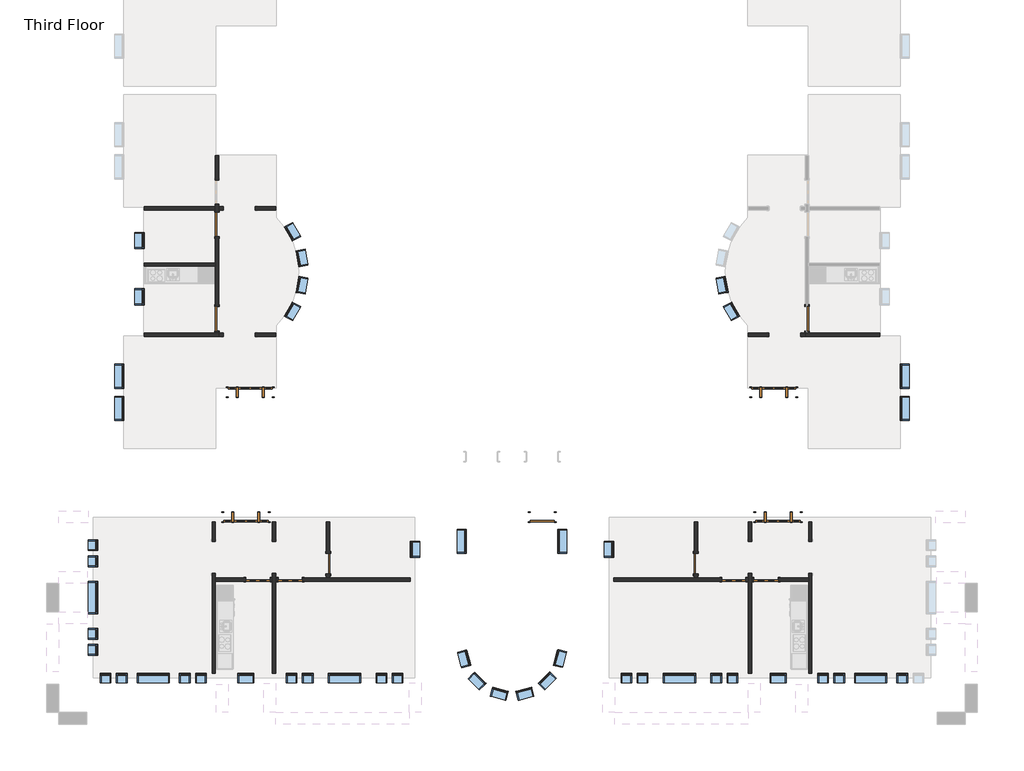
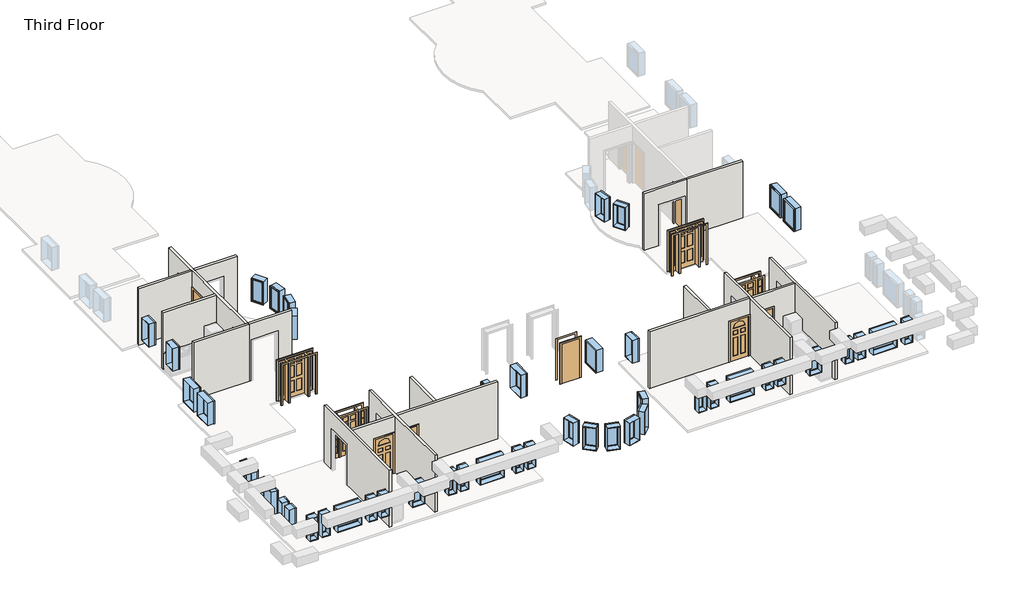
# One storey, part 1 of 4: 48 windows, 18 walls, 14 doors.
"""IFC4 building model written with IfcOpenShell, lengths in millimetres."""

from ifc_helpers import new_model, si_unit, frame, origin, place, context, project, spatial, polyline, outline, extrude, faceted_brep, transform, mapped, element, save
from components import door_829da954, door_2e3b4da2, door_4d6c7550, door_e36758a9, door_a1797ceb, door_a3eb833a, door_cc5399a4, door_dba5aa2e, door_ffdb1193, window_da97879f, window_d61ef850, window_60baf983, window_ed80354a, window_15c49d37, window_0e2fc6ce, window_6eb97611, window_d89bf842

model = new_model("IFC4")

# Units and contexts
model_context = context("Model", 3, world=origin())
ifc_project = project(units=[si_unit("LENGTHUNIT", "METRE", prefix="MILLI")], contexts=[model_context])

# Site, building, storey
site = spatial("IfcSite", under=ifc_project)
building = spatial("IfcBuilding", under=site)
storey = spatial("IfcBuildingStorey", under=building, Name="Third Floor", Elevation=6096.0)

# Doors
placement = place(None, origin())
door_shape = door_829da954(model_context)
element("IfcDoor", 1, ObjectType="Single-Decorative 2 : 36\" x 84\"", at=placement, inside=storey, context=model_context, shape_type="MappedRepresentation", body=[
    mapped(door_shape, transform((-6669.0589563, -30331.8808133, 6096.0), x_axis=(1.0, 0.0, 0.0), y_axis=(0.0, 1.0, 0.0), z_axis=(0.0, 0.0, 1.0))),
])
element("IfcDoor", 2, ObjectType="Single-Decorative 2 : 36\" x 84\"", at=placement, inside=storey, context=model_context, shape_type="MappedRepresentation", body=[
    mapped(door_shape, transform((-24674.4839563, -30331.8808133, 6096.0), x_axis=(1.0, 0.0, 0.0), y_axis=(0.0, 1.0, 0.0), z_axis=(0.0, 0.0, 1.0))),
])
door_2_shape = door_2e3b4da2(model_context)
element("IfcDoor", 3, ObjectType="Single-Decorative 2 : 36\" x 84\"", at=placement, inside=storey, context=model_context, shape_type="MappedRepresentation", body=[
    mapped(door_2_shape, transform((-5449.8589563, -30331.8808133, 6096.0), x_axis=(-1.0, 0.0, 0.0), y_axis=(0.0, -1.0, 0.0), z_axis=(0.0, 0.0, 1.0))),
])
element("IfcDoor", 4, ObjectType="Single-Decorative 2 : 36\" x 84\"", at=placement, inside=storey, context=model_context, shape_type="MappedRepresentation", body=[
    mapped(door_2_shape, transform((-23455.2839563, -30331.8808133, 6096.0), x_axis=(-1.0, 0.0, 0.0), y_axis=(0.0, -1.0, 0.0), z_axis=(0.0, 0.0, 1.0))),
])
door_3_shape = door_4d6c7550(model_context)
element("IfcDoor", 5, ObjectType="Single-Flush : 30\" x 84\"", at=placement, inside=storey, context=model_context, shape_type="MappedRepresentation", body=[
    mapped(door_3_shape, transform((-22018.5964563, -29722.2808133, 6096.0), x_axis=(0.0, -1.0, 0.0), y_axis=(1.0, 0.0, 0.0), z_axis=(0.0, 0.0, 1.0))),
])
door_4_shape = door_e36758a9(model_context)
element("IfcDoor", 6, ObjectType="Single-Flush : 30\" x 84\"", at=placement, inside=storey, context=model_context, shape_type="MappedRepresentation", body=[
    mapped(door_4_shape, transform((-8105.7464563, -29722.2808133, 6096.0), x_axis=(0.0, -1.0, 0.0), y_axis=(1.0, 0.0, 0.0), z_axis=(0.0, 0.0, 1.0))),
])
door_5_shape = door_a1797ceb(model_context)
element("IfcDoor", 7, ObjectType="Single-Flush : 36\" x 84\"", at=placement, inside=storey, context=model_context, shape_type="MappedRepresentation", body=[
    mapped(door_5_shape, transform((-3900.4589563, -20451.2808133, 6096.0), x_axis=(0.0, -1.0, 0.0), y_axis=(1.0, 0.0, 0.0), z_axis=(0.0, 0.0, 1.0))),
])
element("IfcDoor", 8, ObjectType="Single-Flush : 36\" x 84\"", at=placement, inside=storey, context=model_context, shape_type="MappedRepresentation", body=[
    mapped(door_5_shape, transform((-26223.8839563, -16873.0558133, 6096.0), x_axis=(0.0, 1.0, 0.0), y_axis=(-1.0, 0.0, 0.0), z_axis=(0.0, 0.0, 1.0))),
])
door_6_shape = door_a3eb833a(model_context)
element("IfcDoor", 9, ObjectType="Single-Flush : 36\" x 84\"", at=placement, inside=storey, context=model_context, shape_type="MappedRepresentation", body=[
    mapped(door_6_shape, transform((-26223.8839563, -20451.2808133, 6096.0), x_axis=(0.0, -1.0, 0.0), y_axis=(1.0, 0.0, 0.0), z_axis=(0.0, 0.0, 1.0))),
])
door_7_shape = door_cc5399a4(model_context)
element("IfcDoor", 10, ObjectType="Single-Flush : 36\" x 84\"", at=placement, inside=storey, context=model_context, shape_type="MappedRepresentation", body=[
    mapped(door_7_shape, transform((-13919.1714563, -27958.5683133, 6096.0), x_axis=(1.0, 0.0, 0.0), y_axis=(0.0, 1.0, 0.0), z_axis=(0.0, 0.0, 1.0))),
])
door_8_shape = door_dba5aa2e(model_context)
element("IfcDoor", 11, ObjectType="Single-Raised Panel with Sidelights : 36\" x 84\"", at=placement, inside=storey, context=model_context, shape_type="MappedRepresentation", body=[
    mapped(door_8_shape, transform((-5156.1714563, -23234.1683133, 6096.0), x_axis=(-1.0, 0.0, 0.0), y_axis=(0.0, -1.0, 0.0), z_axis=(0.0, 0.0, 1.0))),
])
element("IfcDoor", 12, ObjectType="Single-Raised Panel with Sidelights : 36\" x 84\"", at=placement, inside=storey, context=model_context, shape_type="MappedRepresentation", body=[
    mapped(door_8_shape, transform((-25131.6839563, -27958.5683133, 6096.0), x_axis=(1.0, 0.0, 0.0), y_axis=(0.0, 1.0, 0.0), z_axis=(0.0, 0.0, 1.0))),
])
door_9_shape = door_ffdb1193(model_context)
element("IfcDoor", 13, ObjectType="Single-Raised Panel with Sidelights : 36\" x 84\"", at=placement, inside=storey, context=model_context, shape_type="MappedRepresentation", body=[
    mapped(door_9_shape, transform((-4992.6589563, -27958.5683133, 6096.0), x_axis=(-1.0, 0.0, 0.0), y_axis=(0.0, -1.0, 0.0), z_axis=(0.0, 0.0, 1.0))),
])
element("IfcDoor", 14, ObjectType="Single-Raised Panel with Sidelights : 36\" x 84\"", at=placement, inside=storey, context=model_context, shape_type="MappedRepresentation", body=[
    mapped(door_9_shape, transform((-24968.1714563, -23234.1683133, 6096.0), x_axis=(1.0, 0.0, 0.0), y_axis=(0.0, 1.0, 0.0), z_axis=(0.0, 0.0, 1.0))),
])

# Walls
element("IfcWall", 15, ObjectType="Interior - 5\" Partition (2-hr)", at=placement, inside=storey, context=model_context, shape_type="Brep", body=[
    faceted_brep([(-3709.9589563, -33878.3558133, 6096.0), (-3709.9589563, -30092.1683133, 6096.0), (-3709.9589563, -30092.1683133, 8229.6), (-3709.9589563, -28872.9683133, 8229.6), (-3709.9589563, -28872.9683133, 6096.0), (-3709.9589563, -28134.7808133, 6096.0), (-3709.9589563, -28134.7808133, 9144.0), (-3709.9589563, -33878.3558133, 9144.0), (-3836.9589563, -30092.1683133, 8229.6), (-3836.9589563, -30092.1683133, 6096.0), (-3836.9589563, -30268.3808133, 6096.0), (-3836.9589563, -30395.3808133, 6096.0), (-3836.9589563, -33878.3558133, 6096.0), (-3836.9589563, -33878.3558133, 9144.0), (-3836.9589563, -30395.3808133, 9144.0), (-3836.9589563, -30268.3808133, 9144.0), (-3836.9589563, -28134.7808133, 9144.0), (-3836.9589563, -28134.7808133, 6096.0), (-3836.9589563, -28872.9683133, 6096.0), (-3836.9589563, -28872.9683133, 8229.6)], [[[0, 1, 2, 3, 4, 5, 6, 7]], [[8, 9, 10, 11, 12, 13, 14, 15, 16, 17, 18, 19]], [[12, 11, 10, 9, 1, 0]], [[18, 17, 5, 4]], [[7, 6, 16, 15, 14, 13]], [[0, 7, 13, 12]], [[6, 5, 17, 16]], [[4, 3, 19, 18]], [[2, 1, 9, 8]], [[3, 2, 8, 19]]]),
])
element("IfcWall", 16, ObjectType="Interior - 5\" Partition (2-hr)", at=placement, inside=storey, context=model_context, shape_type="Brep", body=[
    faceted_brep([(-5995.9589563, -28872.9683133, 8229.6), (-5995.9589563, -28872.9683133, 6096.0), (-5995.9589563, -28134.7808133, 6096.0), (-5995.9589563, -28134.7808133, 9144.0), (-5995.9589563, -30268.3808133, 9144.0), (-5995.9589563, -30395.3808133, 9144.0), (-5995.9589563, -33878.3558133, 9144.0), (-5995.9589563, -33878.3558133, 6096.0), (-5995.9589563, -30395.3808133, 6096.0), (-5995.9589563, -30268.3808133, 6096.0), (-5995.9589563, -30092.1683133, 6096.0), (-5995.9589563, -30092.1683133, 8229.6), (-6122.9589563, -28134.7808133, 6096.0), (-6122.9589563, -28872.9683133, 6096.0), (-6122.9589563, -28872.9683133, 8229.6), (-6122.9589563, -30092.1683133, 8229.6), (-6122.9589563, -30092.1683133, 6096.0), (-6122.9589563, -30268.3808133, 6096.0), (-6122.9589563, -30395.3808133, 6096.0), (-6122.9589563, -33878.3558133, 6096.0), (-6122.9589563, -33878.3558133, 9144.0), (-6122.9589563, -30395.3808133, 9144.0), (-6122.9589563, -30268.3808133, 9144.0), (-6122.9589563, -28134.7808133, 9144.0)], [[[0, 1, 2, 3, 4, 5, 6, 7, 8, 9, 10, 11]], [[12, 13, 14, 15, 16, 17, 18, 19, 20, 21, 22, 23]], [[2, 1, 13, 12]], [[10, 9, 8, 7, 19, 18, 17, 16]], [[6, 5, 4, 3, 23, 22, 21, 20]], [[7, 6, 20, 19]], [[3, 2, 12, 23]], [[16, 15, 11, 10]], [[14, 13, 1, 0]], [[15, 14, 0, 11]]]),
])
element("IfcWall", 17, ObjectType="Interior - 5\" Partition (2-hr)", at=placement, inside=storey, context=model_context, shape_type="Brep", body=[
    faceted_brep([(-6211.8589563, -30395.3808133, 8229.6), (-6211.8589563, -30395.3808133, 6096.0), (-6122.9589563, -30395.3808133, 6096.0), (-6122.9589563, -30395.3808133, 9144.0), (-11217.2464563, -30395.3808133, 9144.0), (-11217.2464563, -30395.3808133, 6096.0), (-7126.2589563, -30395.3808133, 6096.0), (-7126.2589563, -30395.3808133, 8229.6), (-6122.9589563, -30268.3808133, 6096.0), (-6211.8589563, -30268.3808133, 6096.0), (-6211.8589563, -30268.3808133, 8229.6), (-7126.2589563, -30268.3808133, 8229.6), (-7126.2589563, -30268.3808133, 6096.0), (-8042.2464563, -30268.3808133, 6096.0), (-8169.2464563, -30268.3808133, 6096.0), (-11217.2464563, -30268.3808133, 6096.0), (-11217.2464563, -30268.3808133, 9144.0), (-8169.2464563, -30268.3808133, 9144.0), (-8042.2464563, -30268.3808133, 9144.0), (-6122.9589563, -30268.3808133, 9144.0)], [[[0, 1, 2, 3, 4, 5, 6, 7]], [[8, 9, 10, 11, 12, 13, 14, 15, 16, 17, 18, 19]], [[2, 1, 9, 8]], [[6, 5, 15, 14, 13, 12]], [[4, 3, 19, 18, 17, 16]], [[3, 2, 8, 19]], [[5, 4, 16, 15]], [[10, 9, 1, 0]], [[11, 10, 0, 7]], [[12, 11, 7, 6]]]),
])
element("IfcWall", 18, ObjectType="Interior - 5\" Partition (2-hr)", at=placement, inside=storey, context=model_context, shape_type="SweptSolid", body=[
    extrude(outline(polyline([(-30103.2808133, 8229.6), (-30103.2808133, 6096.0), (-30268.3808133, 6096.0), (-30268.3808133, 9144.0), (-28134.7808133, 9144.0), (-28134.7808133, 6096.0), (-29341.2808133, 6096.0), (-29341.2808133, 8229.6), (-30103.2808133, 8229.6)])), frame((-8169.2464563, 0.0, 0.0), z_axis=(1.0, 0.0, 0.0), x_axis=(0.0, 1.0, 0.0)), (0.0, 0.0, 1.0), 127.0),
])
element("IfcWall", 19, ObjectType="Interior - 5\" Partition (2-hr)", at=placement, inside=storey, context=model_context, shape_type="SweptSolid", body=[
    extrude(outline(polyline([(6096.0, -5995.9589563), (6096.0, -5907.0589563), (8229.6, -5907.0589563), (8229.6, -4992.6589563), (6096.0, -4992.6589563), (6096.0, -3836.9589563), (9144.0, -3836.9589563), (9144.0, -5995.9589563), (6096.0, -5995.9589563)])), frame((0.0, -30395.3808133, 0.0), z_axis=(0.0, 1.0, 0.0), x_axis=(0.0, 0.0, 1.0)), (0.0, 0.0, 1.0), 127.0),
])
element("IfcWall", 20, ObjectType="Interior - 5\" Partition (2-hr)", at=placement, inside=storey, context=model_context, shape_type="Brep", body=[
    faceted_brep([(-1141.3839563, -20997.3808133, 6096.0), (-3836.9589563, -20997.3808133, 6096.0), (-3963.9589563, -20997.3808133, 6096.0), (-3963.9589563, -20997.3808133, 9144.0), (-3836.9589563, -20997.3808133, 9144.0), (-1141.3839563, -20997.3808133, 9144.0), (-1141.3839563, -21124.3808133, 6096.0), (-1141.3839563, -21124.3808133, 9144.0), (-3963.9589563, -21124.3808133, 9144.0), (-3963.9589563, -21124.3808133, 6096.0)], [[[0, 1, 2, 3, 4, 5]], [[6, 7, 8, 9]], [[2, 1, 0, 6, 9]], [[5, 4, 3, 8, 7]], [[3, 2, 9, 8]], [[0, 5, 7, 6]]]),
])
element("IfcWall", 21, ObjectType="Interior - 5\" Partition (2-hr)", at=placement, inside=storey, context=model_context, shape_type="SweptSolid", body=[
    extrude(outline(polyline([(8229.6, -4129.0589563), (6096.0, -4129.0589563), (6096.0, -3963.9589563), (9144.0, -3963.9589563), (9144.0, -6122.9589563), (6096.0, -6122.9589563), (6096.0, -5348.2589563), (8229.6, -5348.2589563), (8229.6, -4129.0589563)])), frame((0.0, -21124.3808133, 0.0), z_axis=(0.0, 1.0, 0.0), x_axis=(0.0, 0.0, 1.0)), (0.0, 0.0, 1.0), 127.0),
])
element("IfcWall", 22, ObjectType="Interior - 5\" Partition (2-hr)", at=placement, inside=storey, context=model_context, shape_type="Brep", body=[
    faceted_brep([(-26287.3839563, -33878.3558133, 6096.0), (-26287.3839563, -30395.3808133, 6096.0), (-26287.3839563, -30268.3808133, 6096.0), (-26287.3839563, -30092.1683133, 6096.0), (-26287.3839563, -30092.1683133, 8229.6), (-26287.3839563, -28872.9683133, 8229.6), (-26287.3839563, -28872.9683133, 6096.0), (-26287.3839563, -28134.7808133, 6096.0), (-26287.3839563, -28134.7808133, 9144.0), (-26287.3839563, -30268.3808133, 9144.0), (-26287.3839563, -30395.3808133, 9144.0), (-26287.3839563, -33878.3558133, 9144.0), (-26414.3839563, -30092.1683133, 8229.6), (-26414.3839563, -30092.1683133, 6096.0), (-26414.3839563, -33878.3558133, 6096.0), (-26414.3839563, -33878.3558133, 9144.0), (-26414.3839563, -28134.7808133, 9144.0), (-26414.3839563, -28134.7808133, 6096.0), (-26414.3839563, -28872.9683133, 6096.0), (-26414.3839563, -28872.9683133, 8229.6)], [[[0, 1, 2, 3, 4, 5, 6, 7, 8, 9, 10, 11]], [[12, 13, 14, 15, 16, 17, 18, 19]], [[14, 13, 3, 2, 1, 0]], [[18, 17, 7, 6]], [[11, 10, 9, 8, 16, 15]], [[0, 11, 15, 14]], [[8, 7, 17, 16]], [[6, 5, 19, 18]], [[4, 3, 13, 12]], [[5, 4, 12, 19]]]),
])
element("IfcWall", 23, ObjectType="Interior - 5\" Partition (2-hr)", at=placement, inside=storey, context=model_context, shape_type="Brep", body=[
    faceted_brep([(-24001.3839563, -28872.9683133, 8229.6), (-24001.3839563, -28872.9683133, 6096.0), (-24001.3839563, -28134.7808133, 6096.0), (-24001.3839563, -28134.7808133, 9144.0), (-24001.3839563, -30268.3808133, 9144.0), (-24001.3839563, -30395.3808133, 9144.0), (-24001.3839563, -33878.3558133, 9144.0), (-24001.3839563, -33878.3558133, 6096.0), (-24001.3839563, -30395.3808133, 6096.0), (-24001.3839563, -30268.3808133, 6096.0), (-24001.3839563, -30092.1683133, 6096.0), (-24001.3839563, -30092.1683133, 8229.6), (-24128.3839563, -28134.7808133, 6096.0), (-24128.3839563, -28872.9683133, 6096.0), (-24128.3839563, -28872.9683133, 8229.6), (-24128.3839563, -30092.1683133, 8229.6), (-24128.3839563, -30092.1683133, 6096.0), (-24128.3839563, -30268.3808133, 6096.0), (-24128.3839563, -30395.3808133, 6096.0), (-24128.3839563, -33878.3558133, 6096.0), (-24128.3839563, -33878.3558133, 9144.0), (-24128.3839563, -30395.3808133, 9144.0), (-24128.3839563, -30268.3808133, 9144.0), (-24128.3839563, -28134.7808133, 9144.0)], [[[0, 1, 2, 3, 4, 5, 6, 7, 8, 9, 10, 11]], [[12, 13, 14, 15, 16, 17, 18, 19, 20, 21, 22, 23]], [[2, 1, 13, 12]], [[10, 9, 8, 7, 19, 18, 17, 16]], [[6, 5, 4, 3, 23, 22, 21, 20]], [[7, 6, 20, 19]], [[3, 2, 12, 23]], [[16, 15, 11, 10]], [[14, 13, 1, 0]], [[15, 14, 0, 11]]]),
])
element("IfcWall", 24, ObjectType="Interior - 5\" Partition (2-hr)", at=placement, inside=storey, context=model_context, shape_type="Brep", body=[
    faceted_brep([(-23912.4839563, -30268.3808133, 8229.6), (-23912.4839563, -30268.3808133, 6096.0), (-24001.3839563, -30268.3808133, 6096.0), (-24001.3839563, -30268.3808133, 9144.0), (-22082.0964563, -30268.3808133, 9144.0), (-21955.0964563, -30268.3808133, 9144.0), (-18907.0964563, -30268.3808133, 9144.0), (-18907.0964563, -30268.3808133, 6096.0), (-21955.0964563, -30268.3808133, 6096.0), (-22082.0964563, -30268.3808133, 6096.0), (-22998.0839563, -30268.3808133, 6096.0), (-22998.0839563, -30268.3808133, 8229.6), (-24001.3839563, -30395.3808133, 6096.0), (-23912.4839563, -30395.3808133, 6096.0), (-23912.4839563, -30395.3808133, 8229.6), (-22998.0839563, -30395.3808133, 8229.6), (-22998.0839563, -30395.3808133, 6096.0), (-18907.0964563, -30395.3808133, 6096.0), (-18907.0964563, -30395.3808133, 9144.0), (-24001.3839563, -30395.3808133, 9144.0)], [[[0, 1, 2, 3, 4, 5, 6, 7, 8, 9, 10, 11]], [[12, 13, 14, 15, 16, 17, 18, 19]], [[2, 1, 13, 12]], [[10, 9, 8, 7, 17, 16]], [[6, 5, 4, 3, 19, 18]], [[3, 2, 12, 19]], [[7, 6, 18, 17]], [[14, 13, 1, 0]], [[15, 14, 0, 11]], [[16, 15, 11, 10]]]),
])
element("IfcWall", 25, ObjectType="Interior - 5\" Partition (2-hr)", at=placement, inside=storey, context=model_context, shape_type="SweptSolid", body=[
    extrude(outline(polyline([(-30103.2808133, 8229.6), (-30103.2808133, 6096.0), (-30268.3808133, 6096.0), (-30268.3808133, 9144.0), (-28134.7808133, 9144.0), (-28134.7808133, 6096.0), (-29341.2808133, 6096.0), (-29341.2808133, 8229.6), (-30103.2808133, 8229.6)])), frame((-22082.0964563, 0.0, 0.0), z_axis=(1.0, 0.0, 0.0), x_axis=(0.0, 1.0, 0.0)), (0.0, 0.0, 1.0), 127.0),
])
element("IfcWall", 26, ObjectType="Interior - 5\" Partition (2-hr)", at=placement, inside=storey, context=model_context, shape_type="SweptSolid", body=[
    extrude(outline(polyline([(8229.6, -24217.2839563), (6096.0, -24217.2839563), (6096.0, -24128.3839563), (9144.0, -24128.3839563), (9144.0, -26287.3839563), (6096.0, -26287.3839563), (6096.0, -25131.6839563), (8229.6, -25131.6839563), (8229.6, -24217.2839563)])), frame((0.0, -30395.3808133, 0.0), z_axis=(0.0, 1.0, 0.0), x_axis=(0.0, 0.0, 1.0)), (0.0, 0.0, 1.0), 127.0),
])
element("IfcWall", 27, ObjectType="Interior - 5\" Partition (2-hr)", at=placement, inside=storey, context=model_context, shape_type="Brep", body=[
    faceted_brep([(-28982.9589563, -21124.3808133, 6096.0), (-26160.3839563, -21124.3808133, 6096.0), (-26160.3839563, -21124.3808133, 9144.0), (-28982.9589563, -21124.3808133, 9144.0), (-28982.9589563, -20997.3808133, 6096.0), (-28982.9589563, -20997.3808133, 9144.0), (-26287.3839563, -20997.3808133, 9144.0), (-26160.3839563, -20997.3808133, 9144.0), (-26160.3839563, -20997.3808133, 6096.0), (-26287.3839563, -20997.3808133, 6096.0)], [[[0, 1, 2, 3]], [[4, 5, 6, 7, 8, 9]], [[1, 0, 4, 9, 8]], [[3, 2, 7, 6, 5]], [[2, 1, 8, 7]], [[0, 3, 5, 4]]]),
])
element("IfcWall", 28, ObjectType="Interior - 5\" Partition (2-hr)", at=placement, inside=storey, context=model_context, shape_type="Brep", body=[
    faceted_brep([(-26287.3839563, -16111.0558133, 8229.6), (-26287.3839563, -16111.0558133, 6096.0), (-26287.3839563, -16199.9558133, 6096.0), (-26287.3839563, -16326.9558133, 6096.0), (-26287.3839563, -16415.8558133, 6096.0), (-26287.3839563, -16415.8558133, 8229.6), (-26287.3839563, -17330.2558133, 8229.6), (-26287.3839563, -17330.2558133, 6096.0), (-26287.3839563, -18333.5558133, 6096.0), (-26287.3839563, -18460.5558133, 6096.0), (-26287.3839563, -19994.0808133, 6096.0), (-26287.3839563, -19994.0808133, 8229.6), (-26287.3839563, -20908.4808133, 8229.6), (-26287.3839563, -20908.4808133, 6096.0), (-26287.3839563, -20997.3808133, 6096.0), (-26287.3839563, -20997.3808133, 9144.0), (-26287.3839563, -18460.5558133, 9144.0), (-26287.3839563, -18333.5558133, 9144.0), (-26287.3839563, -16326.9558133, 9144.0), (-26287.3839563, -16199.9558133, 9144.0), (-26287.3839563, -14266.3808133, 9144.0), (-26287.3839563, -14266.3808133, 6096.0), (-26287.3839563, -15196.6558133, 6096.0), (-26287.3839563, -15196.6558133, 8229.6), (-26160.3839563, -16415.8558133, 6096.0), (-26160.3839563, -16326.9558133, 6096.0), (-26160.3839563, -16199.9558133, 6096.0), (-26160.3839563, -16111.0558133, 6096.0), (-26160.3839563, -16111.0558133, 8229.6), (-26160.3839563, -15196.6558133, 8229.6), (-26160.3839563, -15196.6558133, 6096.0), (-26160.3839563, -14266.3808133, 6096.0), (-26160.3839563, -14266.3808133, 9144.0), (-26160.3839563, -16199.9558133, 9144.0), (-26160.3839563, -16326.9558133, 9144.0), (-26160.3839563, -20997.3808133, 9144.0), (-26160.3839563, -20997.3808133, 6096.0), (-26160.3839563, -20908.4808133, 6096.0), (-26160.3839563, -20908.4808133, 8229.6), (-26160.3839563, -19994.0808133, 8229.6), (-26160.3839563, -19994.0808133, 6096.0), (-26160.3839563, -17330.2558133, 6096.0), (-26160.3839563, -17330.2558133, 8229.6), (-26160.3839563, -16415.8558133, 8229.6)], [[[0, 1, 2, 3, 4, 5, 6, 7, 8, 9, 10, 11, 12, 13, 14, 15, 16, 17, 18, 19, 20, 21, 22, 23]], [[24, 25, 26, 27, 28, 29, 30, 31, 32, 33, 34, 35, 36, 37, 38, 39, 40, 41, 42, 43]], [[14, 13, 37, 36]], [[4, 3, 2, 1, 27, 26, 25, 24]], [[41, 40, 10, 9, 8, 7]], [[22, 21, 31, 30]], [[20, 19, 18, 17, 16, 15, 35, 34, 33, 32]], [[15, 14, 36, 35]], [[21, 20, 32, 31]], [[38, 37, 13, 12]], [[39, 38, 12, 11]], [[40, 39, 11, 10]], [[5, 4, 24, 43]], [[6, 5, 43, 42]], [[7, 6, 42, 41]], [[28, 27, 1, 0]], [[29, 28, 0, 23]], [[30, 29, 23, 22]]]),
])
element("IfcWall", 29, ObjectType="Interior - 5\" Partition (2-hr)", at=placement, inside=storey, context=model_context, shape_type="SweptSolid", body=[
    extrude(outline(polyline([(-26287.3839563, -16326.9558133), (-28982.9589563, -16326.9558133), (-28982.9589563, -16199.9558133), (-26287.3839563, -16199.9558133), (-26287.3839563, -16326.9558133)])), frame((0.0, 0.0, 6096.0), z_axis=(0.0, 0.0, 1.0), x_axis=(1.0, 0.0, 0.0)), (0.0, 0.0, 1.0), 3048.0),
])
element("IfcWall", 30, ObjectType="Interior - 5\" Partition (2-hr)", at=placement, inside=storey, context=model_context, shape_type="SweptSolid", body=[
    extrude(outline(polyline([(-28982.9589563, -18333.5558133), (-26287.3839563, -18333.5558133), (-26287.3839563, -18460.5558133), (-28982.9589563, -18460.5558133), (-28982.9589563, -18333.5558133)])), frame((0.0, 0.0, 6096.0), z_axis=(0.0, 0.0, 1.0), x_axis=(1.0, 0.0, 0.0)), (0.0, 0.0, 1.0), 3048.0),
])
element("IfcWall", 31, ObjectType="Interior - 5\" Partition (2-hr)", at=placement, inside=storey, context=model_context, shape_type="SweptSolid", body=[
    extrude(outline(polyline([(8229.6, -24776.0839563), (6096.0, -24776.0839563), (6096.0, -24001.3839563), (9144.0, -24001.3839563), (9144.0, -26160.3839563), (6096.0, -26160.3839563), (6096.0, -25995.2839563), (8229.6, -25995.2839563), (8229.6, -24776.0839563)])), frame((0.0, -16326.9558133, 0.0), z_axis=(0.0, 1.0, 0.0), x_axis=(0.0, 0.0, 1.0)), (0.0, 0.0, 1.0), 127.0),
])
element("IfcWall", 32, ObjectType="Interior - 5\" Partition (2-hr)", at=placement, inside=storey, context=model_context, shape_type="SweptSolid", body=[
    extrude(outline(polyline([(6096.0, -26160.3839563), (6096.0, -25995.2839563), (8229.6, -25995.2839563), (8229.6, -24776.0839563), (6096.0, -24776.0839563), (6096.0, -24001.3839563), (9144.0, -24001.3839563), (9144.0, -26160.3839563), (6096.0, -26160.3839563)])), frame((0.0, -21124.3808133, 0.0), z_axis=(0.0, 1.0, 0.0), x_axis=(0.0, 0.0, 1.0)), (0.0, 0.0, 1.0), 127.0),
])

# Windows
window_shape = window_da97879f(model_context)
element("IfcWindow", 33, ObjectType="Fixed : 16\" x 48\"", at=placement, inside=storey, context=model_context, shape_type="MappedRepresentation", body=[
    mapped(window_shape, transform((-6681.7589563, -34054.5683133, 6096.0), x_axis=(1.0, 0.0, 0.0), y_axis=(0.0, 1.0, 0.0), z_axis=(0.0, 0.0, 1.0))),
])
element("IfcWindow", 34, ObjectType="Fixed : 16\" x 48\"", at=placement, inside=storey, context=model_context, shape_type="MappedRepresentation", body=[
    mapped(window_shape, transform((-7291.3589563, -34054.5683133, 6096.0), x_axis=(1.0, 0.0, 0.0), y_axis=(0.0, 1.0, 0.0), z_axis=(0.0, 0.0, 1.0))),
])
element("IfcWindow", 35, ObjectType="Fixed : 16\" x 48\"", at=placement, inside=storey, context=model_context, shape_type="MappedRepresentation", body=[
    mapped(window_shape, transform((-255.5589563, -34054.5683133, 6096.0), x_axis=(1.0, 0.0, 0.0), y_axis=(0.0, 1.0, 0.0), z_axis=(0.0, 0.0, 1.0))),
])
element("IfcWindow", 36, ObjectType="Fixed : 16\" x 48\"", at=placement, inside=storey, context=model_context, shape_type="MappedRepresentation", body=[
    mapped(window_shape, transform((-19353.1839563, -34054.5683133, 6096.0), x_axis=(1.0, 0.0, 0.0), y_axis=(0.0, 1.0, 0.0), z_axis=(0.0, 0.0, 1.0))),
])
element("IfcWindow", 37, ObjectType="Fixed : 16\" x 48\"", at=placement, inside=storey, context=model_context, shape_type="MappedRepresentation", body=[
    mapped(window_shape, transform((-19962.7839563, -34054.5683133, 6096.0), x_axis=(1.0, 0.0, 0.0), y_axis=(0.0, 1.0, 0.0), z_axis=(0.0, 0.0, 1.0))),
])
element("IfcWindow", 38, ObjectType="Fixed : 16\" x 48\"", at=placement, inside=storey, context=model_context, shape_type="MappedRepresentation", body=[
    mapped(window_shape, transform((-26795.3839563, -34054.5683133, 6096.0), x_axis=(1.0, 0.0, 0.0), y_axis=(0.0, 1.0, 0.0), z_axis=(0.0, 0.0, 1.0))),
])
element("IfcWindow", 39, ObjectType="Fixed : 16\" x 48\"", at=placement, inside=storey, context=model_context, shape_type="MappedRepresentation", body=[
    mapped(window_shape, transform((-27404.9839563, -34054.5683133, 6096.0), x_axis=(1.0, 0.0, 0.0), y_axis=(0.0, 1.0, 0.0), z_axis=(0.0, 0.0, 1.0))),
])
element("IfcWindow", 40, ObjectType="Fixed : 16\" x 48\"", at=placement, inside=storey, context=model_context, shape_type="MappedRepresentation", body=[
    mapped(window_shape, transform((-30922.8839563, -33025.8683133, 6096.0), x_axis=(0.0, -1.0, 0.0), y_axis=(1.0, 0.0, 0.0), z_axis=(0.0, 0.0, 1.0))),
])
element("IfcWindow", 41, ObjectType="Fixed : 16\" x 48\"", at=placement, inside=storey, context=model_context, shape_type="MappedRepresentation", body=[
    mapped(window_shape, transform((-30922.8839563, -32416.2683133, 6096.0), x_axis=(0.0, -1.0, 0.0), y_axis=(1.0, 0.0, 0.0), z_axis=(0.0, 0.0, 1.0))),
])
window_2_shape = window_d61ef850(model_context)
element("IfcWindow", 42, ObjectType="Fixed : 16\" x 48\"", at=placement, inside=storey, context=model_context, shape_type="MappedRepresentation", body=[
    mapped(window_2_shape, transform((-10771.1589563, -34054.5683133, 6096.0), x_axis=(-1.0, 0.0, 0.0), y_axis=(0.0, -1.0, 0.0), z_axis=(0.0, 0.0, 1.0))),
])
element("IfcWindow", 43, ObjectType="Fixed : 16\" x 48\"", at=placement, inside=storey, context=model_context, shape_type="MappedRepresentation", body=[
    mapped(window_2_shape, transform((-10161.5589563, -34054.5683133, 6096.0), x_axis=(-1.0, 0.0, 0.0), y_axis=(0.0, -1.0, 0.0), z_axis=(0.0, 0.0, 1.0))),
])
element("IfcWindow", 44, ObjectType="Fixed : 16\" x 48\"", at=placement, inside=storey, context=model_context, shape_type="MappedRepresentation", body=[
    mapped(window_2_shape, transform((-3328.9589563, -34054.5683133, 6096.0), x_axis=(-1.0, 0.0, 0.0), y_axis=(0.0, -1.0, 0.0), z_axis=(0.0, 0.0, 1.0))),
])
element("IfcWindow", 45, ObjectType="Fixed : 16\" x 48\"", at=placement, inside=storey, context=model_context, shape_type="MappedRepresentation", body=[
    mapped(window_2_shape, transform((-2719.3589563, -34054.5683133, 6096.0), x_axis=(-1.0, 0.0, 0.0), y_axis=(0.0, -1.0, 0.0), z_axis=(0.0, 0.0, 1.0))),
])
element("IfcWindow", 46, ObjectType="Fixed : 16\" x 48\"", at=placement, inside=storey, context=model_context, shape_type="MappedRepresentation", body=[
    mapped(window_2_shape, transform((-23442.5839563, -34054.5683133, 6096.0), x_axis=(-1.0, 0.0, 0.0), y_axis=(0.0, -1.0, 0.0), z_axis=(0.0, 0.0, 1.0))),
])
element("IfcWindow", 47, ObjectType="Fixed : 16\" x 48\"", at=placement, inside=storey, context=model_context, shape_type="MappedRepresentation", body=[
    mapped(window_2_shape, transform((-22832.9839563, -34054.5683133, 6096.0), x_axis=(-1.0, 0.0, 0.0), y_axis=(0.0, -1.0, 0.0), z_axis=(0.0, 0.0, 1.0))),
])
element("IfcWindow", 48, ObjectType="Fixed : 16\" x 48\"", at=placement, inside=storey, context=model_context, shape_type="MappedRepresentation", body=[
    mapped(window_2_shape, transform((-30478.3839563, -34054.5683133, 6096.0), x_axis=(-1.0, 0.0, 0.0), y_axis=(0.0, -1.0, 0.0), z_axis=(0.0, 0.0, 1.0))),
])
element("IfcWindow", 49, ObjectType="Fixed : 16\" x 48\"", at=placement, inside=storey, context=model_context, shape_type="MappedRepresentation", body=[
    mapped(window_2_shape, transform((-29868.7839563, -34054.5683133, 6096.0), x_axis=(-1.0, 0.0, 0.0), y_axis=(0.0, -1.0, 0.0), z_axis=(0.0, 0.0, 1.0))),
])
element("IfcWindow", 50, ObjectType="Fixed : 16\" x 48\"", at=placement, inside=storey, context=model_context, shape_type="MappedRepresentation", body=[
    mapped(window_2_shape, transform((-30922.8839563, -28987.2683133, 6096.0), x_axis=(0.0, 1.0, 0.0), y_axis=(-1.0, 0.0, 0.0), z_axis=(0.0, 0.0, 1.0))),
])
element("IfcWindow", 51, ObjectType="Fixed : 16\" x 48\"", at=placement, inside=storey, context=model_context, shape_type="MappedRepresentation", body=[
    mapped(window_2_shape, transform((-30922.8839563, -29596.8683133, 6096.0), x_axis=(0.0, 1.0, 0.0), y_axis=(-1.0, 0.0, 0.0), z_axis=(0.0, 0.0, 1.0))),
])
window_3_shape = window_60baf983(model_context)
element("IfcWindow", 52, ObjectType="Fixed : 24\" x 48\"", at=placement, inside=storey, context=model_context, shape_type="MappedRepresentation", body=[
    mapped(window_3_shape, transform((-25093.5839563, -34054.5683133, 6096.0), x_axis=(1.0, 0.0, 0.0), y_axis=(0.0, 1.0, 0.0), z_axis=(0.0, 0.0, 1.0))),
])
element("IfcWindow", 53, ObjectType="Fixed : 24\" x 48\"", at=placement, inside=storey, context=model_context, shape_type="MappedRepresentation", body=[
    mapped(window_3_shape, transform((-18730.8839563, -29139.6683133, 6096.0), x_axis=(0.0, 1.0, 0.0), y_axis=(-1.0, 0.0, 0.0), z_axis=(0.0, 0.0, 1.0))),
])
element("IfcWindow", 54, ObjectType="Fixed : 24\" x 48\"", at=placement, inside=storey, context=model_context, shape_type="MappedRepresentation", body=[
    mapped(window_3_shape, transform((-23349.1961911, -20134.3150929, 6096.0), x_axis=(0.49619108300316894, 0.8682133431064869, 0.0), y_axis=(-0.8682133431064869, 0.49619108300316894, 0.0), z_axis=(0.0, 0.0, 1.0))),
])
element("IfcWindow", 55, ObjectType="Fixed : 24\" x 48\"", at=placement, inside=storey, context=model_context, shape_type="MappedRepresentation", body=[
    mapped(window_3_shape, transform((-23005.8677992, -19139.5143296, 6096.0), x_axis=(0.16973229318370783, 0.9854902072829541, 0.0), y_axis=(-0.9854902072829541, 0.16973229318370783, 0.0), z_axis=(0.0, 0.0, 1.0))),
])
window_4_shape = window_ed80354a(model_context)
element("IfcWindow", 56, ObjectType="Fixed : 24\" x 48\"", at=placement, inside=storey, context=model_context, shape_type="MappedRepresentation", body=[
    mapped(window_4_shape, transform((-5030.7589563, -34054.5683133, 6096.0), x_axis=(-1.0, 0.0, 0.0), y_axis=(0.0, -1.0, 0.0), z_axis=(0.0, 0.0, 1.0))),
])
element("IfcWindow", 57, ObjectType="Fixed : 24\" x 48\"", at=placement, inside=storey, context=model_context, shape_type="MappedRepresentation", body=[
    mapped(window_4_shape, transform((-11393.4589563, -29139.6683133, 6096.0), x_axis=(0.0, 1.0, 0.0), y_axis=(-1.0, 0.0, 0.0), z_axis=(0.0, 0.0, 1.0))),
])
element("IfcWindow", 58, ObjectType="Fixed : 24\" x 48\"", at=placement, inside=storey, context=model_context, shape_type="MappedRepresentation", body=[
    mapped(window_4_shape, transform((-16884.5848795, -33290.1635131, 6096.0), x_axis=(-0.2617614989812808, 0.9651325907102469, 0.0), y_axis=(-0.9651325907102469, -0.2617614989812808, 0.0), z_axis=(0.0, 0.0, 1.0))),
])
element("IfcWindow", 59, ObjectType="Fixed : 24\" x 48\"", at=placement, inside=storey, context=model_context, shape_type="MappedRepresentation", body=[
    mapped(window_4_shape, transform((-16413.0301771, -34140.4392215, 6096.0), x_axis=(-0.7092584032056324, 0.7049485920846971, 0.0), y_axis=(-0.7049485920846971, -0.7092584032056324, 0.0), z_axis=(0.0, 0.0, 1.0))),
])
element("IfcWindow", 60, ObjectType="Fixed : 24\" x 48\"", at=placement, inside=storey, context=model_context, shape_type="MappedRepresentation", body=[
    mapped(window_4_shape, transform((-15579.5139714, -34641.0222339, 6096.0), x_axis=(-0.9667100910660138, 0.2558741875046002, 0.0), y_axis=(-0.2558741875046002, -0.9667100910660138, 0.0), z_axis=(0.0, 0.0, 1.0))),
])
element("IfcWindow", 61, ObjectType="Fixed : 24\" x 48\"", at=placement, inside=storey, context=model_context, shape_type="MappedRepresentation", body=[
    mapped(window_4_shape, transform((-14607.3762565, -34657.7817365, 6096.0), x_axis=(-0.9651325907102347, -0.2617614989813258, 0.0), y_axis=(0.2617614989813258, -0.9651325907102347, 0.0), z_axis=(0.0, 0.0, 1.0))),
])
element("IfcWindow", 62, ObjectType="Fixed : 24\" x 48\"", at=placement, inside=storey, context=model_context, shape_type="MappedRepresentation", body=[
    mapped(window_4_shape, transform((-13757.1005482, -34186.2270341, 6096.0), x_axis=(-0.704948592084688, -0.7092584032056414, 0.0), y_axis=(0.7092584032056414, -0.704948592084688, 0.0), z_axis=(0.0, 0.0, 1.0))),
])
element("IfcWindow", 63, ObjectType="Fixed : 24\" x 48\"", at=placement, inside=storey, context=model_context, shape_type="MappedRepresentation", body=[
    mapped(window_4_shape, transform((-13256.5175357, -33352.7108284, 6096.0), x_axis=(-0.25587418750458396, -0.9667100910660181, 0.0), y_axis=(0.9667100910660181, -0.25587418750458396, 0.0), z_axis=(0.0, 0.0, 1.0))),
])
element("IfcWindow", 64, ObjectType="Fixed : 24\" x 48\"", at=placement, inside=storey, context=model_context, shape_type="MappedRepresentation", body=[
    mapped(window_4_shape, transform((-6773.5999888, -20133.4311225, 6096.0), x_axis=(-0.4961910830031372, 0.868213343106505, 0.0), y_axis=(-0.868213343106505, -0.4961910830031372, 0.0), z_axis=(0.0, 0.0, 1.0))),
])
element("IfcWindow", 65, ObjectType="Fixed : 24\" x 48\"", at=placement, inside=storey, context=model_context, shape_type="MappedRepresentation", body=[
    mapped(window_4_shape, transform((-7116.7194505, -19139.2119495, 6096.0), x_axis=(-0.1697322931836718, 0.9854902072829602, 0.0), y_axis=(-0.9854902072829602, -0.1697322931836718, 0.0), z_axis=(0.0, 0.0, 1.0))),
])
element("IfcWindow", 66, ObjectType="Fixed : 24\" x 48\"", at=placement, inside=storey, context=model_context, shape_type="MappedRepresentation", body=[
    mapped(window_4_shape, transform((-29159.1714563, -19578.1558133, 6096.0), x_axis=(0.0, 1.0, 0.0), y_axis=(-1.0, 0.0, 0.0), z_axis=(0.0, 0.0, 1.0))),
])
element("IfcWindow", 67, ObjectType="Fixed : 24\" x 48\"", at=placement, inside=storey, context=model_context, shape_type="MappedRepresentation", body=[
    mapped(window_4_shape, transform((-29159.1714563, -17444.5558133, 6096.0), x_axis=(0.0, 1.0, 0.0), y_axis=(-1.0, 0.0, 0.0), z_axis=(0.0, 0.0, 1.0))),
])
element("IfcWindow", 68, ObjectType="Fixed : 24\" x 48\"", at=placement, inside=storey, context=model_context, shape_type="MappedRepresentation", body=[
    mapped(window_4_shape, transform((-23349.1961911, -17190.0215337, 6096.0), x_axis=(0.4961910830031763, -0.8682133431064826, 0.0), y_axis=(0.8682133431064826, 0.4961910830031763, 0.0), z_axis=(0.0, 0.0, 1.0))),
])
element("IfcWindow", 69, ObjectType="Fixed : 24\" x 48\"", at=placement, inside=storey, context=model_context, shape_type="MappedRepresentation", body=[
    mapped(window_4_shape, transform((-23005.8677992, -18184.822297, 6096.0), x_axis=(0.16973229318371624, -0.9854902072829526, 0.0), y_axis=(0.9854902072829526, 0.16973229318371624, 0.0), z_axis=(0.0, 0.0, 1.0))),
])
window_5_shape = window_15c49d37(model_context)
element("IfcWindow", 70, ObjectType="Fixed : 36\" x 48\"", at=placement, inside=storey, context=model_context, shape_type="MappedRepresentation", body=[
    mapped(window_5_shape, transform((-203.1714563, -23805.6683133, 6096.0), x_axis=(0.0, 1.0, 0.0), y_axis=(-1.0, 0.0, 0.0), z_axis=(0.0, 0.0, 1.0))),
])
element("IfcWindow", 71, ObjectType="Fixed : 36\" x 48\"", at=placement, inside=storey, context=model_context, shape_type="MappedRepresentation", body=[
    mapped(window_5_shape, transform((-203.1714563, -22586.4683133, 6096.0), x_axis=(0.0, 1.0, 0.0), y_axis=(-1.0, 0.0, 0.0), z_axis=(0.0, 0.0, 1.0))),
])
window_6_shape = window_0e2fc6ce(model_context)
element("IfcWindow", 72, ObjectType="Fixed : 36\" x 48\"", at=placement, inside=storey, context=model_context, shape_type="MappedRepresentation", body=[
    mapped(window_6_shape, transform((-16967.1714563, -28834.8683133, 6096.0), x_axis=(0.0, 1.0, 0.0), y_axis=(-1.0, 0.0, 0.0), z_axis=(0.0, 0.0, 1.0))),
])
element("IfcWindow", 73, ObjectType="Fixed : 36\" x 48\"", at=placement, inside=storey, context=model_context, shape_type="MappedRepresentation", body=[
    mapped(window_6_shape, transform((-13157.1714563, -28911.0683133, 6096.0), x_axis=(0.0, -1.0, 0.0), y_axis=(1.0, 0.0, 0.0), z_axis=(0.0, 0.0, 1.0))),
])
element("IfcWindow", 74, ObjectType="Fixed : 36\" x 48\"", at=placement, inside=storey, context=model_context, shape_type="MappedRepresentation", body=[
    mapped(window_6_shape, transform((-29921.1714563, -23805.6683133, 6096.0), x_axis=(0.0, 1.0, 0.0), y_axis=(-1.0, 0.0, 0.0), z_axis=(0.0, 0.0, 1.0))),
])
element("IfcWindow", 75, ObjectType="Fixed : 36\" x 48\"", at=placement, inside=storey, context=model_context, shape_type="MappedRepresentation", body=[
    mapped(window_6_shape, transform((-29921.1714563, -22586.4683133, 6096.0), x_axis=(0.0, 1.0, 0.0), y_axis=(-1.0, 0.0, 0.0), z_axis=(0.0, 0.0, 1.0))),
])
window_7_shape = window_6eb97611(model_context)
element("IfcWindow", 76, ObjectType="Fixed : 48\" x 48\"", at=placement, inside=storey, context=model_context, shape_type="MappedRepresentation", body=[
    mapped(window_7_shape, transform((-21359.7839563, -34054.5683133, 6096.0), x_axis=(1.0, 0.0, 0.0), y_axis=(0.0, 1.0, 0.0), z_axis=(0.0, 0.0, 1.0))),
])
element("IfcWindow", 77, ObjectType="Fixed : 48\" x 48\"", at=placement, inside=storey, context=model_context, shape_type="MappedRepresentation", body=[
    mapped(window_7_shape, transform((-28598.7839563, -34054.5683133, 6096.0), x_axis=(1.0, 0.0, 0.0), y_axis=(0.0, 1.0, 0.0), z_axis=(0.0, 0.0, 1.0))),
])
element("IfcWindow", 78, ObjectType="Fixed : 48\" x 48\"", at=placement, inside=storey, context=model_context, shape_type="MappedRepresentation", body=[
    mapped(window_7_shape, transform((-30922.8839563, -31044.6683133, 6096.0), x_axis=(0.0, -1.0, 0.0), y_axis=(1.0, 0.0, 0.0), z_axis=(0.0, 0.0, 1.0))),
])
window_8_shape = window_d89bf842(model_context)
element("IfcWindow", 79, ObjectType="Fixed : 48\" x 48\"", at=placement, inside=storey, context=model_context, shape_type="MappedRepresentation", body=[
    mapped(window_8_shape, transform((-8764.5589563, -34054.5683133, 6096.0), x_axis=(-1.0, 0.0, 0.0), y_axis=(0.0, -1.0, 0.0), z_axis=(0.0, 0.0, 1.0))),
])
element("IfcWindow", 80, ObjectType="Fixed : 48\" x 48\"", at=placement, inside=storey, context=model_context, shape_type="MappedRepresentation", body=[
    mapped(window_8_shape, transform((-1525.5589563, -34054.5683133, 6096.0), x_axis=(-1.0, 0.0, 0.0), y_axis=(0.0, -1.0, 0.0), z_axis=(0.0, 0.0, 1.0))),
])

save(model, "model.ifc")
